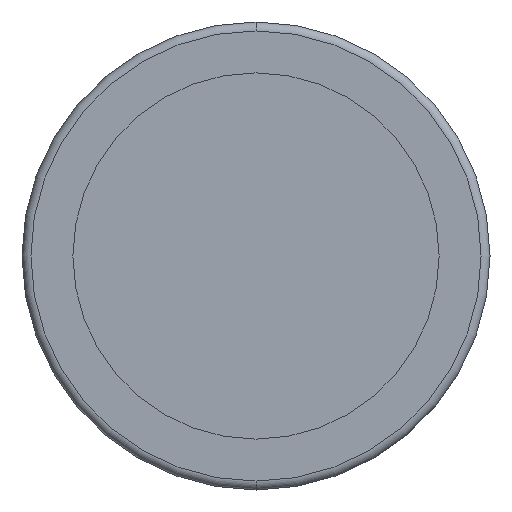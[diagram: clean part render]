
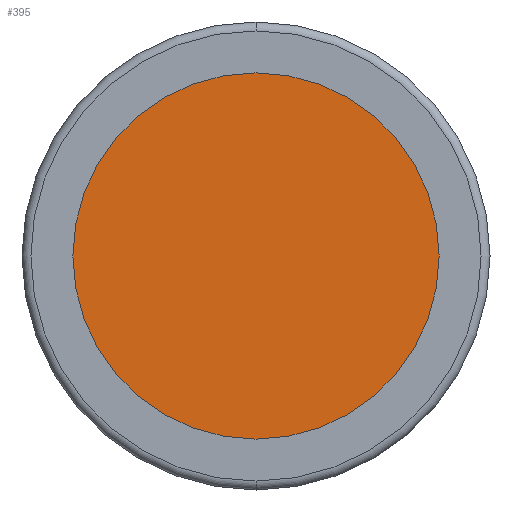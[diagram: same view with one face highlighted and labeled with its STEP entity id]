
A CAD part, front view. The second image highlights one B-rep face of the part: STEP entity #395.
In plain terms, the highlighted planar face has unit normal (0, -1, 0).
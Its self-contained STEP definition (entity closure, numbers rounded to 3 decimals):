
#1 = CARTESIAN_POINT ( 'NONE',  ( 0., 0., 10.25 ) ) ;
#37 = CARTESIAN_POINT ( 'NONE',  ( 0., 0., 0. ) ) ;
#40 = DIRECTION ( 'NONE',  ( 0., -1., 0. ) ) ;
#51 = CARTESIAN_POINT ( 'NONE',  ( 0., 0., 0. ) ) ;
#64 = DIRECTION ( 'NONE',  ( 0., 0., 1. ) ) ;
#113 = AXIS2_PLACEMENT_3D ( 'NONE', #299, #270, #64 ) ;
#162 = VERTEX_POINT ( 'NONE', #1 ) ;
#165 = EDGE_CURVE ( 'NONE', #195, #162, #317, .T. ) ;
#195 = VERTEX_POINT ( 'NONE', #242 ) ;
#198 = PLANE ( 'NONE',  #113 ) ;
#233 = EDGE_LOOP ( 'NONE', ( #377, #454 ) ) ;
#242 = CARTESIAN_POINT ( 'NONE',  ( 0., 0., -10.25 ) ) ;
#270 = DIRECTION ( 'NONE',  ( 0., 1., 0. ) ) ;
#299 = CARTESIAN_POINT ( 'NONE',  ( 0., 0., 0. ) ) ;
#317 = CIRCLE ( 'NONE', #436, 10.25 ) ;
#323 = DIRECTION ( 'NONE',  ( 0., 0., -1. ) ) ;
#330 = DIRECTION ( 'NONE',  ( 0., -1., 0. ) ) ;
#333 = CIRCLE ( 'NONE', #384, 10.25 ) ;
#342 = EDGE_CURVE ( 'NONE', #162, #195, #333, .T. ) ;
#357 = DIRECTION ( 'NONE',  ( 0., 0., -1. ) ) ;
#377 = ORIENTED_EDGE ( 'NONE', *, *, #165, .T. ) ;
#382 = FACE_OUTER_BOUND ( 'NONE', #233, .T. ) ;
#384 = AXIS2_PLACEMENT_3D ( 'NONE', #51, #330, #323 ) ;
#395 = ADVANCED_FACE ( 'NONE', ( #382 ), #198, .F. ) ;
#436 = AXIS2_PLACEMENT_3D ( 'NONE', #37, #40, #357 ) ;
#454 = ORIENTED_EDGE ( 'NONE', *, *, #342, .T. ) ;
